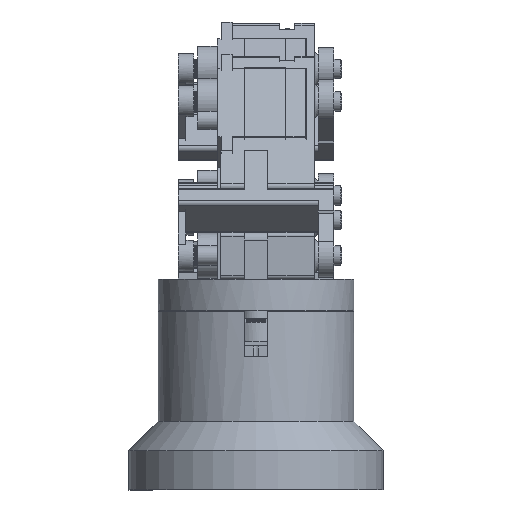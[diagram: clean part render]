
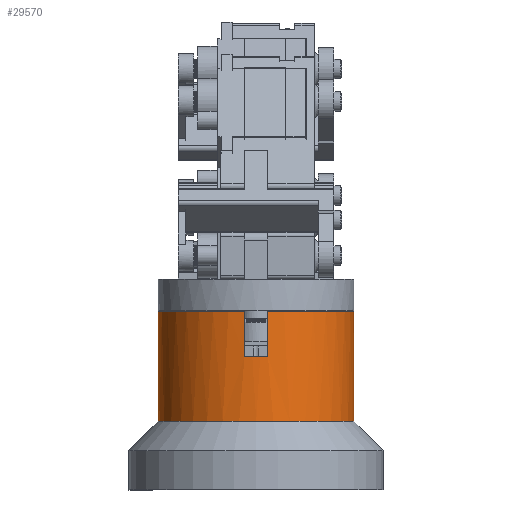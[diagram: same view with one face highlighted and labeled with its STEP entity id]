
A CAD part, left-side view. The second image highlights one B-rep face of the part: STEP entity #29570.
In plain terms, the highlighted cylindrical face has radius 25 mm (diameter 50 mm), a full revolution.
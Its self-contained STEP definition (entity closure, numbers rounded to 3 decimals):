
#2971=FACE_OUTER_BOUND('',#4433,.T.);
#4433=EDGE_LOOP('',(#22640,#22641,#22642,#22643,#22644,#22645,#22646,#22647,
#22648));
#6650=LINE('',#43840,#9554);
#6651=LINE('',#43844,#9555);
#6652=LINE('',#43848,#9556);
#9554=VECTOR('',#36170,25.);
#9555=VECTOR('',#36173,10.);
#9556=VECTOR('',#36176,10.);
#11627=CIRCLE('',#31885,25.);
#11628=CIRCLE('',#31886,25.);
#11630=CIRCLE('',#31889,25.);
#11631=CIRCLE('',#31890,25.);
#11632=CIRCLE('',#31891,25.);
#13130=VERTEX_POINT('',#43832);
#13131=VERTEX_POINT('',#43834);
#13132=VERTEX_POINT('',#43839);
#13133=VERTEX_POINT('',#43841);
#13134=VERTEX_POINT('',#43843);
#13135=VERTEX_POINT('',#43845);
#13136=VERTEX_POINT('',#43847);
#16795=EDGE_CURVE('',#13130,#13131,#11627,.T.);
#16796=EDGE_CURVE('',#13131,#13130,#11628,.T.);
#16798=EDGE_CURVE('',#13131,#13132,#6650,.T.);
#16799=EDGE_CURVE('',#13133,#13132,#11630,.T.);
#16800=EDGE_CURVE('',#13134,#13133,#6651,.T.);
#16801=EDGE_CURVE('',#13134,#13135,#11631,.T.);
#16802=EDGE_CURVE('',#13135,#13136,#6652,.T.);
#16803=EDGE_CURVE('',#13132,#13136,#11632,.T.);
#22640=ORIENTED_EDGE('',*,*,#16795,.F.);
#22641=ORIENTED_EDGE('',*,*,#16796,.F.);
#22642=ORIENTED_EDGE('',*,*,#16798,.T.);
#22643=ORIENTED_EDGE('',*,*,#16799,.F.);
#22644=ORIENTED_EDGE('',*,*,#16800,.F.);
#22645=ORIENTED_EDGE('',*,*,#16801,.T.);
#22646=ORIENTED_EDGE('',*,*,#16802,.T.);
#22647=ORIENTED_EDGE('',*,*,#16803,.F.);
#22648=ORIENTED_EDGE('',*,*,#16798,.F.);
#28816=CYLINDRICAL_SURFACE('',#31888,25.);
#29570=ADVANCED_FACE('',(#2971),#28816,.T.);
#31885=AXIS2_PLACEMENT_3D('',#43835,#36162,#36163);
#31886=AXIS2_PLACEMENT_3D('',#43836,#36164,#36165);
#31888=AXIS2_PLACEMENT_3D('',#43838,#36168,#36169);
#31889=AXIS2_PLACEMENT_3D('',#43842,#36171,#36172);
#31890=AXIS2_PLACEMENT_3D('',#43846,#36174,#36175);
#31891=AXIS2_PLACEMENT_3D('',#43849,#36177,#36178);
#36162=DIRECTION('center_axis',(0.,0.,1.));
#36163=DIRECTION('ref_axis',(-1.,0.,0.));
#36164=DIRECTION('center_axis',(0.,0.,1.));
#36165=DIRECTION('ref_axis',(-1.,0.,0.));
#36168=DIRECTION('center_axis',(0.,0.,1.));
#36169=DIRECTION('ref_axis',(1.,0.,0.));
#36170=DIRECTION('',(0.,0.,-1.));
#36171=DIRECTION('center_axis',(0.,0.,-1.));
#36172=DIRECTION('ref_axis',(0.993,-0.12,0.));
#36173=DIRECTION('',(0.,0.,-1.));
#36174=DIRECTION('center_axis',(0.,0.,1.));
#36175=DIRECTION('ref_axis',(1.,0.,0.));
#36176=DIRECTION('',(0.,0.,-1.));
#36177=DIRECTION('center_axis',(0.,0.,-1.));
#36178=DIRECTION('ref_axis',(0.993,-0.12,0.));
#43832=CARTESIAN_POINT('',(30.65,0.,16.5));
#43834=CARTESIAN_POINT('',(-19.35,0.,16.5));
#43835=CARTESIAN_POINT('Origin',(5.65,0.,
16.5));
#43836=CARTESIAN_POINT('Origin',(5.65,0.,
16.5));
#43838=CARTESIAN_POINT('Origin',(5.65,0.,
0.));
#43839=CARTESIAN_POINT('',(-19.35,0.,-11.5));
#43840=CARTESIAN_POINT('',(-19.35,0.,0.));
#43841=CARTESIAN_POINT('',(30.469,-3.,-11.5));
#43842=CARTESIAN_POINT('Origin',(5.65,0.,
-11.5));
#43843=CARTESIAN_POINT('',(30.469,-3.,0.));
#43844=CARTESIAN_POINT('',(30.469,-3.,0.));
#43845=CARTESIAN_POINT('',(30.469,3.,0.));
#43846=CARTESIAN_POINT('Origin',(5.65,0.,
0.));
#43847=CARTESIAN_POINT('',(30.469,3.,-11.5));
#43848=CARTESIAN_POINT('',(30.469,3.,0.));
#43849=CARTESIAN_POINT('Origin',(5.65,0.,
-11.5));
